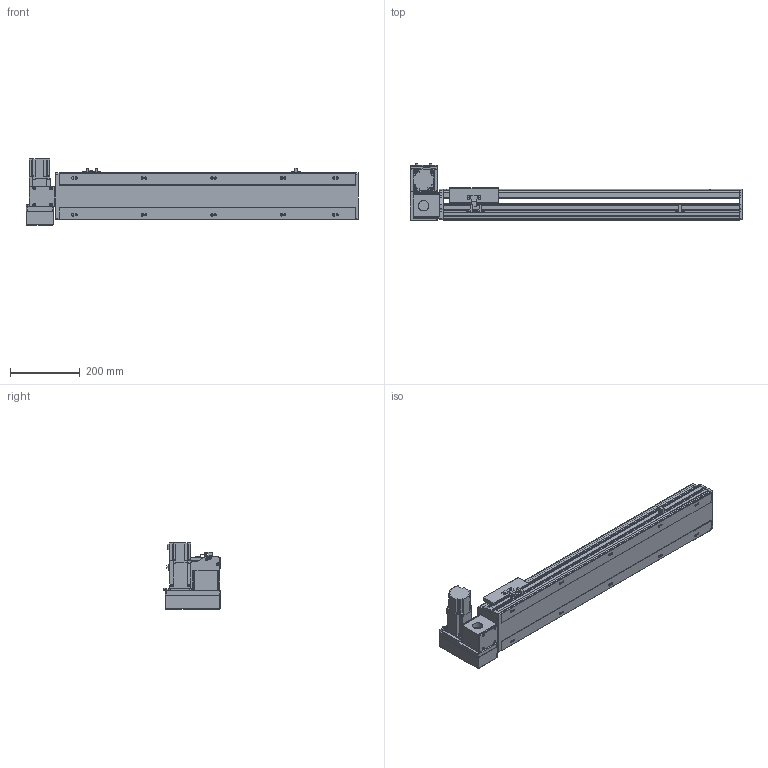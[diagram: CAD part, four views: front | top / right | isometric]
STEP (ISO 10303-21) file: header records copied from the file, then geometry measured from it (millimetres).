
FILE_DESCRIPTION( ( 'STEP AP214' ), '1' );
FILE_NAME( 'x:/temp/worker_6/temp/exporttempdir_5396_123_hXX1N/format_0/PBS140S-P40-S600-LU-T40-C1-N(0).stp', '2022-06-09T00:33:35', ( 'License CC BY-ND 4.0' ), ( 'CADENAS' ), ' ', 'PARTsolutions', ' ' );
FILE_SCHEMA( ( 'AUTOMOTIVE_DESIGN { 1 0 10303 214 1 1 1 1 }' ) );
Length unit declared in the file: millimetre
Products named in the file (7): PBS140S-P40-S600-LU-T40-C1-N(0); _PBS140S-S600()_body; _PBS140ST-LU_motors; _T40-p1; _PBS140S_sliser; _PBS140S_plant; _PBS140S_sensor
Assembly tree (8 placements, depth 2):
  PBS140S-P40-S600-LU-T40-C1-N(0)
    _PBS140S-S600()_body
    _PBS140ST-LU_motors
    _T40-p1
    _PBS140S_sliser
    _PBS140S_plant
    _PBS140S_sensor  x3
Bounding box: 954 x 162.5 x 189.7 mm (x, y, z)
Volume: 5218457.8 mm3; surface area: 920833.5 mm2
Topology: 8 solids, 8 shells, 1051 faces, 2791 edges, 1827 vertices
Faces by surface type: plane 684, cylinder 321, cone 36, sphere 8, torus 2
Full cylindrical faces by diameter (mm): 3.242 x4, 4 x2, 4.134 x4, 4.4 x8, 4.5 x2, 4.8 x4, 4.917 x18, 5.5 x7, 6 x2, 7 x12, 7.5 x8, 8 x12, 8.5 x4, 10.5 x10, 14 x1, 30 x2, 50 x2
Entity records: 38410 total; most frequent: CARTESIAN_POINT 5902, DIRECTION 5138, ORIENTED_EDGE 4882, EDGE_CURVE 2441, AXIS2_PLACEMENT_3D 1769, VERTEX_POINT 1681, LINE 1600, VECTOR 1600
